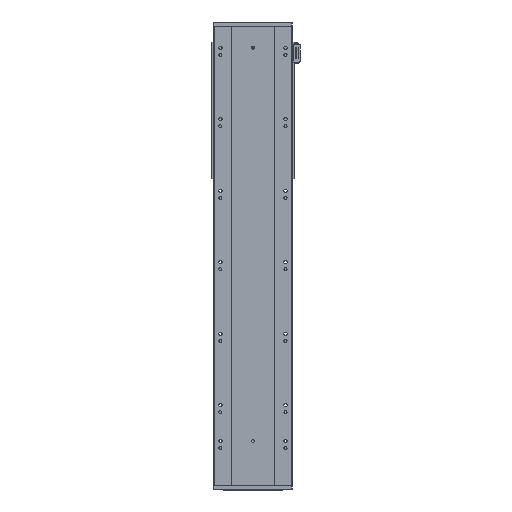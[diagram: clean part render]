
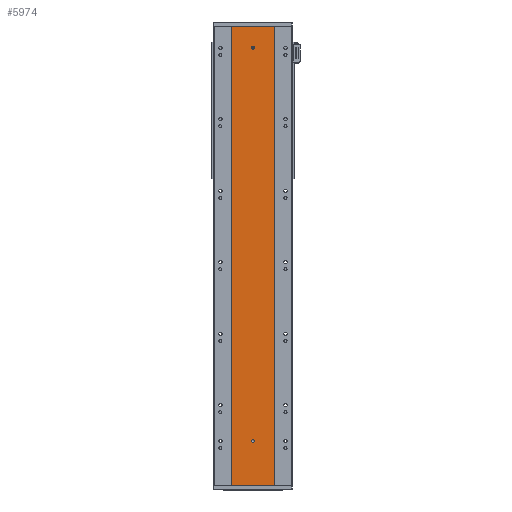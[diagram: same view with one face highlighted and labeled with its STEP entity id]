
A CAD part, front view. The second image highlights one B-rep face of the part: STEP entity #5974.
In plain terms, the highlighted planar face has unit normal (0, -1, 0).
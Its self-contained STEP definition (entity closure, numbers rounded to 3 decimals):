
#756 = VERTEX_POINT ( 'NONE', #21602 ) ;
#814 = VERTEX_POINT ( 'NONE', #32115 ) ;
#1160 = CIRCLE ( 'NONE', #44278, 4. ) ;
#2744 = DIRECTION ( 'NONE',  ( 0., 0., -1. ) ) ;
#3516 = AXIS2_PLACEMENT_3D ( 'NONE', #53558, #6391, #43523 ) ;
#3688 = AXIS2_PLACEMENT_3D ( 'NONE', #10863, #10253, #28930 ) ;
#4614 = EDGE_LOOP ( 'NONE', ( #13145, #28310 ) ) ;
#5974 = ADVANCED_FACE ( 'NONE', ( #14855, #37579, #20005 ), #55715, .F. ) ;
#6391 = DIRECTION ( 'NONE',  ( 0., -1., 0. ) ) ;
#6853 = CARTESIAN_POINT ( 'NONE',  ( -60., 0., 1285. ) ) ;
#7400 = LINE ( 'NONE', #7422, #52852 ) ;
#7422 = CARTESIAN_POINT ( 'NONE',  ( 60., 0., 1285. ) ) ;
#8339 = CARTESIAN_POINT ( 'NONE',  ( -60., 0., 0. ) ) ;
#10253 = DIRECTION ( 'NONE',  ( 0., -1., 0. ) ) ;
#10863 = CARTESIAN_POINT ( 'NONE',  ( 0., 0., 125. ) ) ;
#12721 = DIRECTION ( 'NONE',  ( 0., 0., -1. ) ) ;
#13145 = ORIENTED_EDGE ( 'NONE', *, *, #60836, .F. ) ;
#14155 = CARTESIAN_POINT ( 'NONE',  ( -60., 0., 0. ) ) ;
#14566 = CARTESIAN_POINT ( 'NONE',  ( -60., 0., 1285. ) ) ;
#14855 = FACE_BOUND ( 'NONE', #50969, .T. ) ;
#15135 = CIRCLE ( 'NONE', #3688, 4. ) ;
#15436 = DIRECTION ( 'NONE',  ( 0., 0., -1. ) ) ;
#17955 = ORIENTED_EDGE ( 'NONE', *, *, #53414, .T. ) ;
#18490 = LINE ( 'NONE', #14155, #21432 ) ;
#20005 = FACE_OUTER_BOUND ( 'NONE', #26148, .T. ) ;
#20303 = AXIS2_PLACEMENT_3D ( 'NONE', #40457, #45799, #2744 ) ;
#21355 = EDGE_CURVE ( 'NONE', #48724, #46856, #21628, .T. ) ;
#21432 = VECTOR ( 'NONE', #32839, 1000. ) ;
#21597 = VERTEX_POINT ( 'NONE', #32904 ) ;
#21602 = CARTESIAN_POINT ( 'NONE',  ( 60., 0., 0. ) ) ;
#21628 = LINE ( 'NONE', #54473, #60556 ) ;
#23122 = ORIENTED_EDGE ( 'NONE', *, *, #44360, .F. ) ;
#23940 = ORIENTED_EDGE ( 'NONE', *, *, #55860, .F. ) ;
#24913 = CARTESIAN_POINT ( 'NONE',  ( 0., 0., 1225. ) ) ;
#25627 = VECTOR ( 'NONE', #47638, 1000. ) ;
#26148 = EDGE_LOOP ( 'NONE', ( #40130, #23122, #26268, #17955 ) ) ;
#26268 = ORIENTED_EDGE ( 'NONE', *, *, #21355, .F. ) ;
#26377 = DIRECTION ( 'NONE',  ( 1., 0., 0. ) ) ;
#27954 = CIRCLE ( 'NONE', #20303, 4. ) ;
#28310 = ORIENTED_EDGE ( 'NONE', *, *, #37434, .F. ) ;
#28930 = DIRECTION ( 'NONE',  ( 0., 0., -1. ) ) ;
#30887 = ORIENTED_EDGE ( 'NONE', *, *, #34635, .F. ) ;
#32115 = CARTESIAN_POINT ( 'NONE',  ( 0., 0., 129. ) ) ;
#32303 = CARTESIAN_POINT ( 'NONE',  ( 0., 0., 1229. ) ) ;
#32736 = VERTEX_POINT ( 'NONE', #32303 ) ;
#32839 = DIRECTION ( 'NONE',  ( 1., 0., 0. ) ) ;
#32904 = CARTESIAN_POINT ( 'NONE',  ( 0., 0., 1221. ) ) ;
#34483 = CARTESIAN_POINT ( 'NONE',  ( 0., 0., 121. ) ) ;
#34635 = EDGE_CURVE ( 'NONE', #21597, #32736, #27954, .T. ) ;
#37059 = DIRECTION ( 'NONE',  ( 0., 1., 0. ) ) ;
#37231 = CIRCLE ( 'NONE', #3516, 4. ) ;
#37434 = EDGE_CURVE ( 'NONE', #814, #44183, #37231, .T. ) ;
#37579 = FACE_BOUND ( 'NONE', #4614, .T. ) ;
#38062 = LINE ( 'NONE', #14566, #25627 ) ;
#40130 = ORIENTED_EDGE ( 'NONE', *, *, #57737, .T. ) ;
#40457 = CARTESIAN_POINT ( 'NONE',  ( 0., 0., 1225. ) ) ;
#42187 = CARTESIAN_POINT ( 'NONE',  ( -60., 0., 1285. ) ) ;
#43523 = DIRECTION ( 'NONE',  ( 0., 0., -1. ) ) ;
#44183 = VERTEX_POINT ( 'NONE', #34483 ) ;
#44278 = AXIS2_PLACEMENT_3D ( 'NONE', #24913, #48907, #15436 ) ;
#44360 = EDGE_CURVE ( 'NONE', #46856, #756, #7400, .T. ) ;
#45799 = DIRECTION ( 'NONE',  ( 0., -1., 0. ) ) ;
#46856 = VERTEX_POINT ( 'NONE', #56520 ) ;
#47638 = DIRECTION ( 'NONE',  ( 0., 0., -1. ) ) ;
#48724 = VERTEX_POINT ( 'NONE', #6853 ) ;
#48907 = DIRECTION ( 'NONE',  ( 0., -1., 0. ) ) ;
#49482 = AXIS2_PLACEMENT_3D ( 'NONE', #42187, #37059, #51226 ) ;
#50780 = VERTEX_POINT ( 'NONE', #8339 ) ;
#50969 = EDGE_LOOP ( 'NONE', ( #30887, #23940 ) ) ;
#51226 = DIRECTION ( 'NONE',  ( 0., 0., 1. ) ) ;
#52852 = VECTOR ( 'NONE', #12721, 1000. ) ;
#53414 = EDGE_CURVE ( 'NONE', #48724, #50780, #38062, .T. ) ;
#53558 = CARTESIAN_POINT ( 'NONE',  ( 0., 0., 125. ) ) ;
#54473 = CARTESIAN_POINT ( 'NONE',  ( -60., 0., 1285. ) ) ;
#55715 = PLANE ( 'NONE',  #49482 ) ;
#55860 = EDGE_CURVE ( 'NONE', #32736, #21597, #1160, .T. ) ;
#56520 = CARTESIAN_POINT ( 'NONE',  ( 60., 0., 1285. ) ) ;
#57737 = EDGE_CURVE ( 'NONE', #50780, #756, #18490, .T. ) ;
#60556 = VECTOR ( 'NONE', #26377, 1000. ) ;
#60836 = EDGE_CURVE ( 'NONE', #44183, #814, #15135, .T. ) ;
